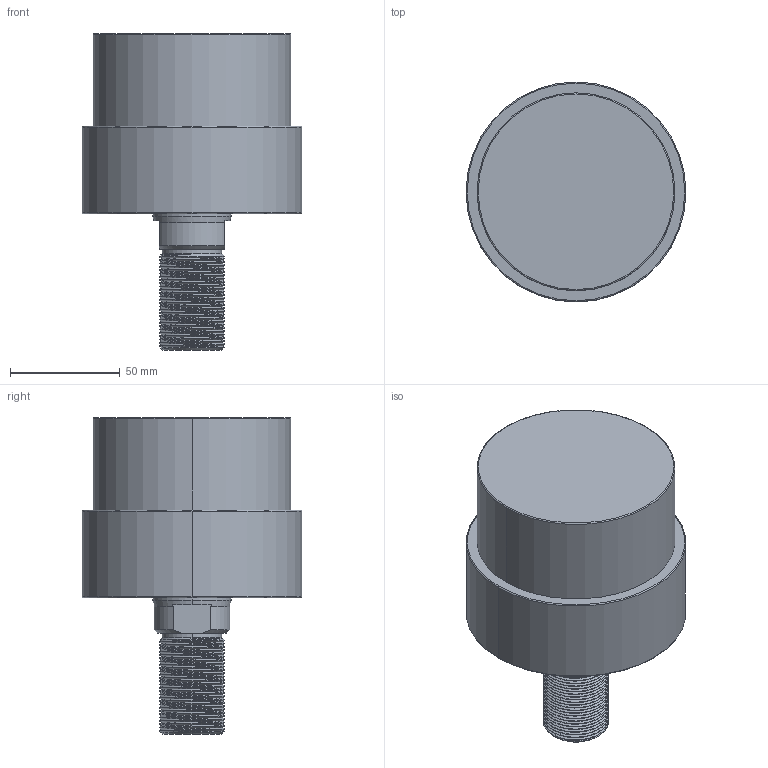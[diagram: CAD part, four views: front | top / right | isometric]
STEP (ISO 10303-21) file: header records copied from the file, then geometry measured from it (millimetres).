
FILE_DESCRIPTION (( 'STEP AP203' ), '1' );
FILE_NAME ('CLLU-090GT-020.STEP', '2020-01-11T01:30:41', ( '' ), ( '' ), 'SwSTEP 2.0', 'SolidWorks 2015', '' );
FILE_SCHEMA (( 'CONFIG_CONTROL_DESIGN' ));
Length unit declared in the file: millimetre
Products named in the file (1): CLLU-090GT-020
Bounding box: 100 x 100 x 144 mm (x, y, z)
Volume: 619911.7 mm3; surface area: 51692.3 mm2
Topology: 1 solids, 1 shells, 123 faces, 321 edges, 201 vertices
Faces by surface type: cylinder 78, cone 26, plane 11, torus 6, bspline 2
Entity records: 7142 total; most frequent: CARTESIAN_POINT 4407, ORIENTED_EDGE 626, DIRECTION 501, EDGE_CURVE 313, VERTEX_POINT 201, AXIS2_PLACEMENT_3D 197, EDGE_LOOP 132, FACE_OUTER_BOUND 123
